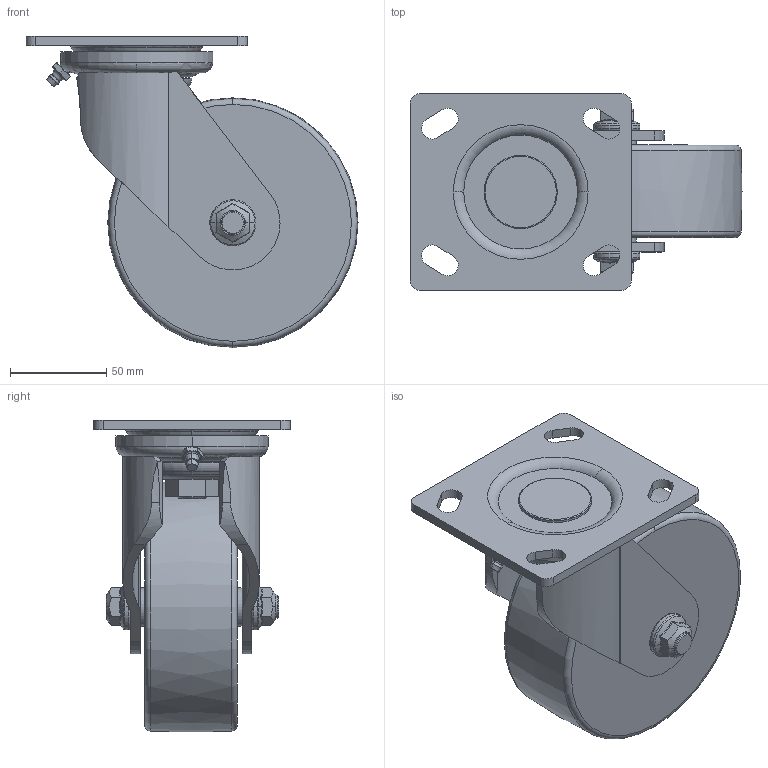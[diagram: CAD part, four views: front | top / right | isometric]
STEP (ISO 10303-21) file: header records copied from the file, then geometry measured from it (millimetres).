
FILE_DESCRIPTION((''),'2;1');
FILE_NAME('PM-130-ASF-MCD.stp','2013-04-30T10:59:52',(''),(''),'Mechanical Desktop 2009','Mechanical Desktop 2009',', , ');
FILE_SCHEMA(('CONFIG_CONTROL_DESIGN'));
Length unit declared in the file: millimetre
Products named in the file (2): PM-130-ASF-MCD; ~SF PLATE
Assembly tree (1 placements, depth 2):
  PM-130-ASF-MCD
    ~SF PLATE
Bounding box: 172.5 x 102 x 161.95 mm (x, y, z)
Volume: 846713.6 mm3; surface area: 110712.8 mm2
Topology: 1 solids, 1 shells, 212 faces, 538 edges, 344 vertices
Faces by surface type: plane 82, cylinder 54, bspline 28, torus 28, cone 20
Entity records: 8254 total; most frequent: CARTESIAN_POINT 3137, ORIENTED_EDGE 1076, DIRECTION 1035, EDGE_CURVE 538, AXIS2_PLACEMENT_3D 416, VERTEX_POINT 344, EDGE_LOOP 240, CIRCLE 216
